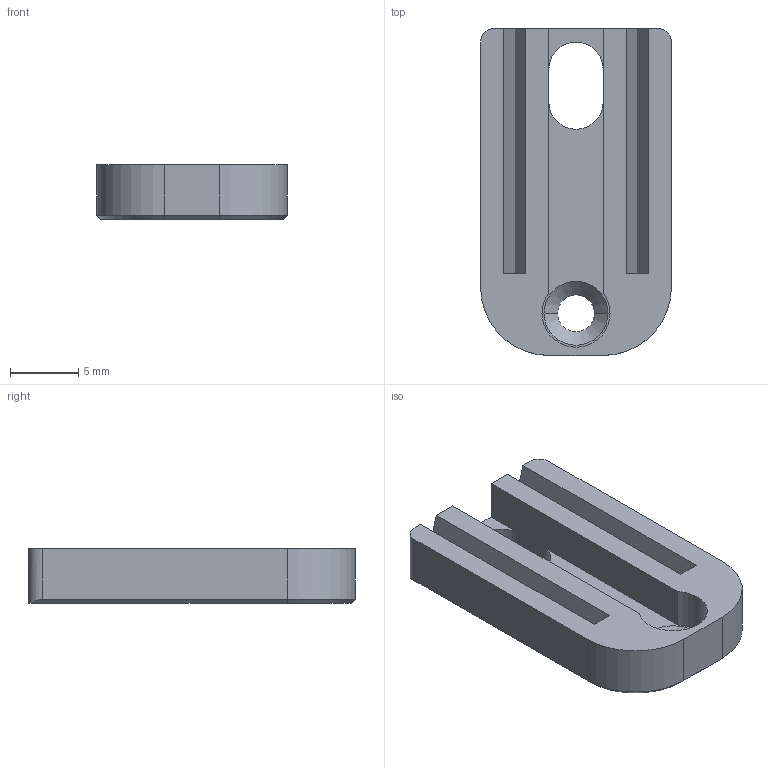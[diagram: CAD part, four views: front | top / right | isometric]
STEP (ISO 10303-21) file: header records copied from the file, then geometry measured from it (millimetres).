
FILE_DESCRIPTION (( 'STEP AP214' ), '1' );
FILE_NAME ('8.0010.4I00.0000.STEP', '2008-10-16T09:50:06', ( 'admin' ), ( 'Fritz Kübler GmbH' ), 'SwSTEP 2.0', 'SolidWorks 2008', '' );
FILE_SCHEMA (( 'AUTOMOTIVE_DESIGN' ));
Length unit declared in the file: millimetre
Products named in the file (1): 8.0010.4I00.0000
Bounding box: 14.01 x 24 x 4 mm (x, y, z)
Volume: 895.1 mm3; surface area: 1193.5 mm2
Topology: 1 solids, 1 shells, 32 faces, 89 edges, 58 vertices
Faces by surface type: plane 19, cylinder 9, cone 4
Entity records: 1056 total; most frequent: CARTESIAN_POINT 186, ORIENTED_EDGE 178, DIRECTION 177, EDGE_CURVE 89, VECTOR 63, LINE 63, VERTEX_POINT 58, AXIS2_PLACEMENT_3D 57
